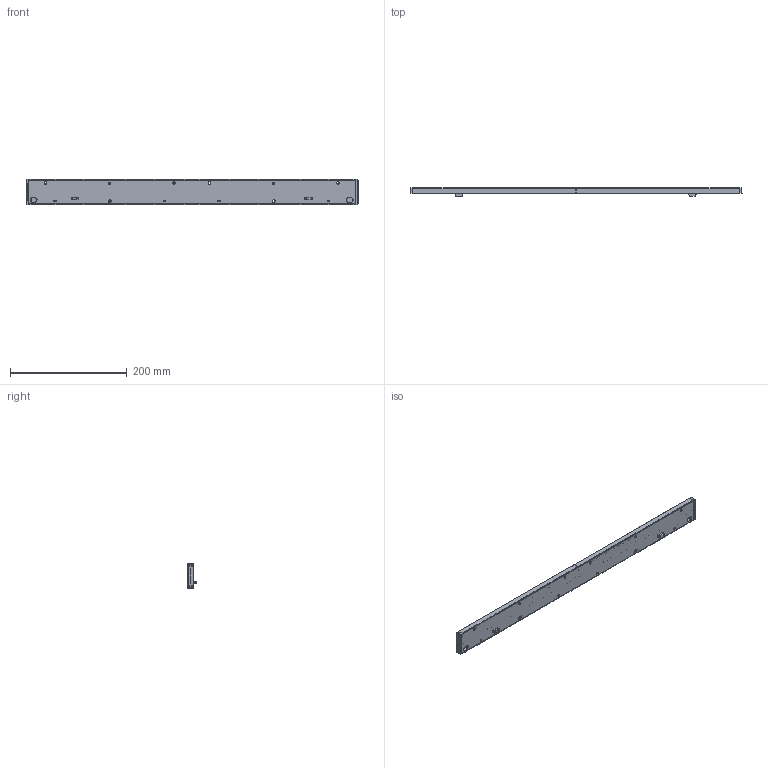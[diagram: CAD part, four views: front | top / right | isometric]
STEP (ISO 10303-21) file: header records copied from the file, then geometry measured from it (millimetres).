
FILE_DESCRIPTION (( 'STEP AP214' ), '1' );
FILE_NAME ('WU-M-481-S-BC with Optic.STEP', '2018-01-11T11:23:45', ( 'Admin' ), ( 'Microsoft' ), 'SwSTEP 2.0', 'SolidWorks 2017', '' );
FILE_SCHEMA (( 'AUTOMOTIVE_DESIGN' ));
Length unit declared in the file: millimetre
Products named in the file (75): STW8C2PB-E1; 2070_461_998_406; Built-In LED Module-4mm; CE-Zeichen-4mm; VSO-Logo-4mm; WU-M-481-S; Optik 555437 (2x) mit 2 Endkappen 555482; WU-M-481-S-BC with Optic
Assembly tree (67 placements, depth 2):
  STW8C2PB-E1
  STW8C2PB-E1
  STW8C2PB-E1
  STW8C2PB-E1
  STW8C2PB-E1
Bounding box: 568.81 x 14.65 x 43.01 mm (x, y, z)
Volume: 35657.1 mm3; surface area: 128910.9 mm2
Topology: 72 solids, 78 shells, 8850 faces, 22999 edges, 15104 vertices
Faces by surface type: plane 5897, cylinder 1845, bspline 800, cone 188, torus 120
Entity records: 229510 total; most frequent: CARTESIAN_POINT 70458, ORIENTED_EDGE 24090, DIRECTION 20110, EDGE_CURVE 12049, LINE 8344, VECTOR 8344, VERTEX_POINT 7903, AXIS2_PLACEMENT_3D 5883
